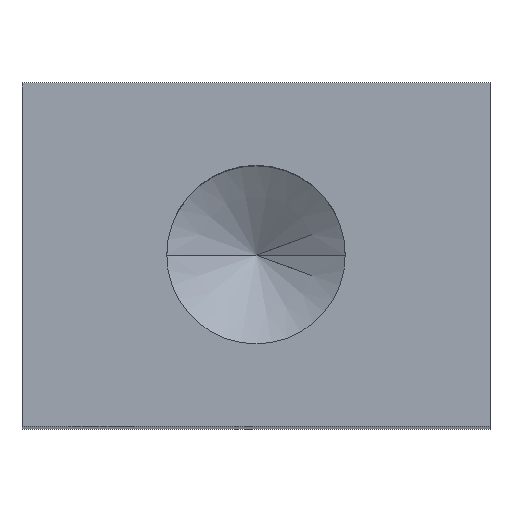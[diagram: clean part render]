
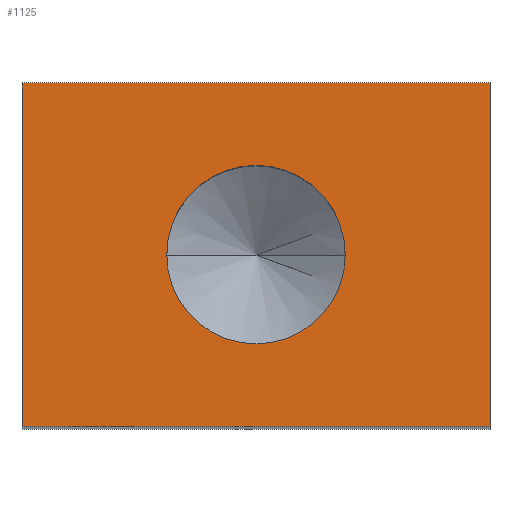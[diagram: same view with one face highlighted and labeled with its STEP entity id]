
A CAD part, top view. The second image highlights one B-rep face of the part: STEP entity #1125.
In plain terms, the highlighted planar face has unit normal (0, 0, 1).
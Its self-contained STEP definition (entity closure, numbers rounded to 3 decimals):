
#36 = EDGE_LOOP ( 'NONE', ( #812, #929, #200, #311 ) ) ;
#38 = DIRECTION ( 'NONE',  ( 0., 0., -1. ) ) ;
#80 = EDGE_CURVE ( 'NONE', #1195, #655, #1150, .T. ) ;
#96 = CARTESIAN_POINT ( 'NONE',  ( -15., 11., 51.5 ) ) ;
#108 = CARTESIAN_POINT ( 'NONE',  ( 15., -11., 51.5 ) ) ;
#120 = LINE ( 'NONE', #976, #393 ) ;
#123 = CARTESIAN_POINT ( 'NONE',  ( -15., 11., 51.5 ) ) ;
#140 = CARTESIAN_POINT ( 'NONE',  ( 15., 11., 51.5 ) ) ;
#155 = DIRECTION ( 'NONE',  ( 0., 0., 1. ) ) ;
#167 = AXIS2_PLACEMENT_3D ( 'NONE', #463, #38, #1118 ) ;
#169 = EDGE_CURVE ( 'NONE', #453, #1693, #1090, .T. ) ;
#195 = EDGE_CURVE ( 'NONE', #655, #1195, #1185, .T. ) ;
#200 = ORIENTED_EDGE ( 'NONE', *, *, #1463, .F. ) ;
#266 = CARTESIAN_POINT ( 'NONE',  ( 0., 0., 51.5 ) ) ;
#311 = ORIENTED_EDGE ( 'NONE', *, *, #1350, .T. ) ;
#393 = VECTOR ( 'NONE', #950, 1000. ) ;
#415 = CARTESIAN_POINT ( 'NONE',  ( -15., 11., 51.5 ) ) ;
#419 = CARTESIAN_POINT ( 'NONE',  ( 15., 11., 51.5 ) ) ;
#453 = VERTEX_POINT ( 'NONE', #140 ) ;
#463 = CARTESIAN_POINT ( 'NONE',  ( -15., 11., 51.5 ) ) ;
#474 = DIRECTION ( 'NONE',  ( 1., 0., 0. ) ) ;
#507 = AXIS2_PLACEMENT_3D ( 'NONE', #266, #155, #1729 ) ;
#535 = ORIENTED_EDGE ( 'NONE', *, *, #80, .F. ) ;
#646 = DIRECTION ( 'NONE',  ( 0., -1., 0. ) ) ;
#651 = CARTESIAN_POINT ( 'NONE',  ( 0., 0., 51.5 ) ) ;
#655 = VERTEX_POINT ( 'NONE', #1656 ) ;
#669 = LINE ( 'NONE', #415, #1604 ) ;
#724 = ORIENTED_EDGE ( 'NONE', *, *, #195, .F. ) ;
#740 = VECTOR ( 'NONE', #646, 1000. ) ;
#812 = ORIENTED_EDGE ( 'NONE', *, *, #1173, .T. ) ;
#820 = DIRECTION ( 'NONE',  ( 0., -1., 0. ) ) ;
#888 = FACE_OUTER_BOUND ( 'NONE', #36, .T. ) ;
#900 = DIRECTION ( 'NONE',  ( 0., 0., 1. ) ) ;
#929 = ORIENTED_EDGE ( 'NONE', *, *, #169, .F. ) ;
#950 = DIRECTION ( 'NONE',  ( 1., 0., 0. ) ) ;
#976 = CARTESIAN_POINT ( 'NONE',  ( -15., -11., 51.5 ) ) ;
#1003 = FACE_BOUND ( 'NONE', #1524, .T. ) ;
#1056 = CARTESIAN_POINT ( 'NONE',  ( 5.722, 0., 51.5 ) ) ;
#1070 = DIRECTION ( 'NONE',  ( 1., 0., 0. ) ) ;
#1090 = LINE ( 'NONE', #419, #1570 ) ;
#1095 = VERTEX_POINT ( 'NONE', #1695 ) ;
#1118 = DIRECTION ( 'NONE',  ( -1., 0., 0. ) ) ;
#1125 = ADVANCED_FACE ( 'NONE', ( #1003, #888 ), #1253, .F. ) ;
#1150 = CIRCLE ( 'NONE', #1464, 5.722 ) ;
#1173 = EDGE_CURVE ( 'NONE', #1095, #1693, #120, .T. ) ;
#1185 = CIRCLE ( 'NONE', #507, 5.722 ) ;
#1195 = VERTEX_POINT ( 'NONE', #1056 ) ;
#1253 = PLANE ( 'NONE',  #167 ) ;
#1350 = EDGE_CURVE ( 'NONE', #1679, #1095, #1562, .T. ) ;
#1463 = EDGE_CURVE ( 'NONE', #1679, #453, #669, .T. ) ;
#1464 = AXIS2_PLACEMENT_3D ( 'NONE', #651, #900, #474 ) ;
#1524 = EDGE_LOOP ( 'NONE', ( #535, #724 ) ) ;
#1562 = LINE ( 'NONE', #96, #740 ) ;
#1570 = VECTOR ( 'NONE', #820, 1000. ) ;
#1604 = VECTOR ( 'NONE', #1070, 1000. ) ;
#1656 = CARTESIAN_POINT ( 'NONE',  ( -5.722, 0., 51.5 ) ) ;
#1679 = VERTEX_POINT ( 'NONE', #123 ) ;
#1693 = VERTEX_POINT ( 'NONE', #108 ) ;
#1695 = CARTESIAN_POINT ( 'NONE',  ( -15., -11., 51.5 ) ) ;
#1729 = DIRECTION ( 'NONE',  ( 1., 0., 0. ) ) ;
